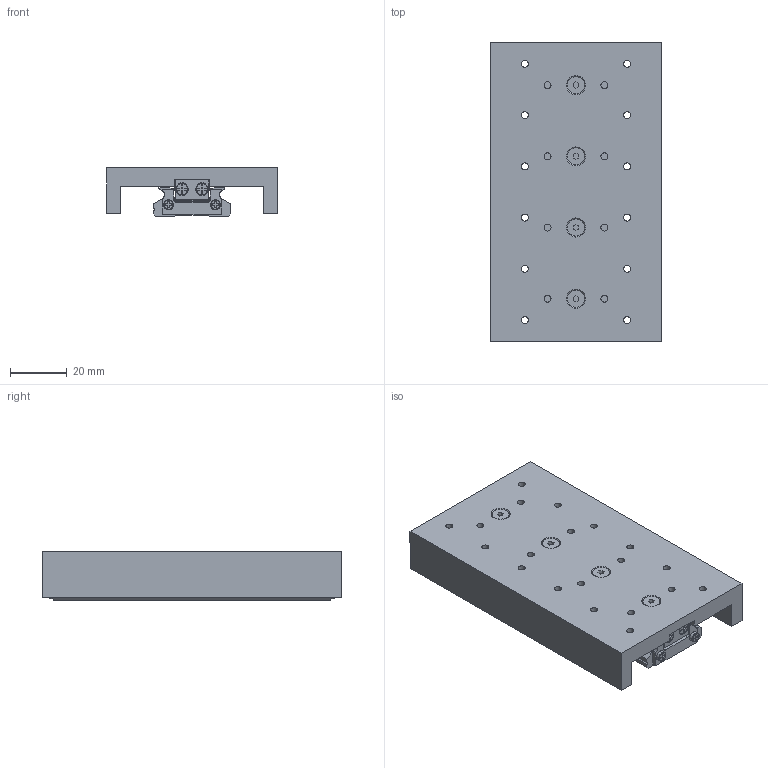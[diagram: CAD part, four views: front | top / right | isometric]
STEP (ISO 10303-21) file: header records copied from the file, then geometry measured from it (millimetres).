
FILE_DESCRIPTION(/* description */ ('MLO 60.105.094-ALU-SE'),/* implementation_level */ '2;1');
FILE_NAME(/* name */ 'ERO-078107.step',/* time_stamp */ '2025-07-02T13:12:27+02:00',/* author */ ('MM'),/* organization */ (''),/* preprocessor_version */ 'ST-DEVELOPER v19.2',/* originating_system */ 'Autodesk Inventor 2023',/* authorisation */ '');
FILE_SCHEMA (('AUTOMOTIVE_DESIGN { 1 0 10303 214 3 1 1 }'));
Length unit declared in the file: millimetre
Products named in the file (8): ERO-078107; ERO-041194; ERO-041192; ERO-041193; ERO-078112; ISO 4032 - SW5,5 - M3 - A2; ISO 10642 - M3 x  8 - A2/70; ERO-080427
Assembly tree (13 placements, depth 3):
  ERO-078107
    ERO-041194
      ERO-041192
      ERO-041193
    ERO-078112
    ISO 4032 - SW5,5 - M3 - A2  x4
    ISO 10642 - M3 x  8 - A2/70  x4
    ERO-080427
Bounding box: 60.01 x 105 x 17 mm (x, y, z)
Volume: 71352.3 mm3; surface area: 35881.6 mm2
Topology: 12 solids, 12 shells, 853 faces, 2232 edges, 1468 vertices
Faces by surface type: plane 617, cylinder 135, cone 48, bspline 45, torus 8
Full cylindrical faces by diameter (mm): 2.459 x24, 2.7 x8, 3 x4, 3.1 x8, 3.5 x12, 4 x4, 6 x12
Entity records: 25025 total; most frequent: CARTESIAN_POINT 4724, ORIENTED_EDGE 4076, DIRECTION 3763, EDGE_CURVE 2038, LINE 1605, VECTOR 1605, VERTEX_POINT 1348, AXIS2_PLACEMENT_3D 1079
